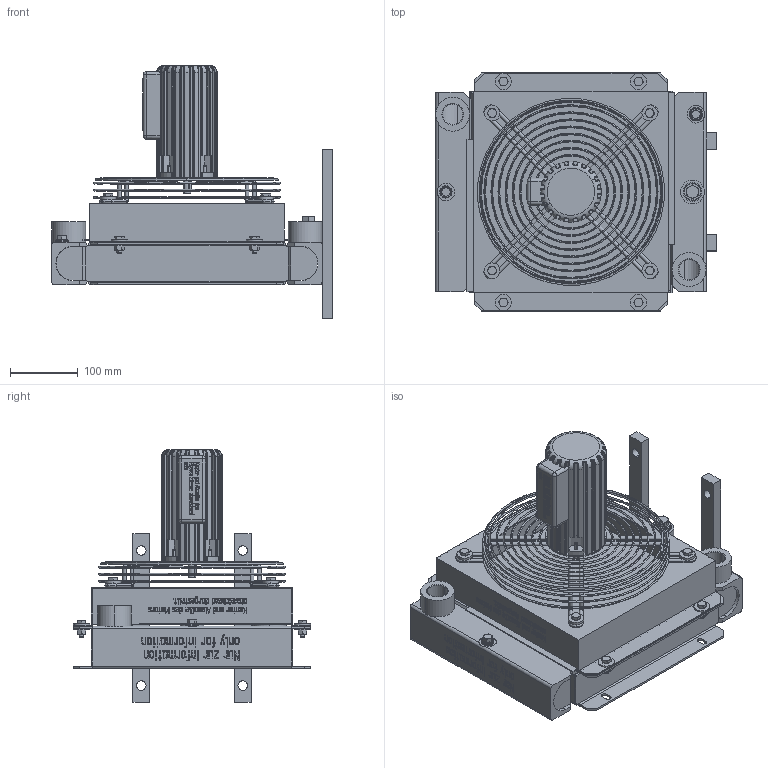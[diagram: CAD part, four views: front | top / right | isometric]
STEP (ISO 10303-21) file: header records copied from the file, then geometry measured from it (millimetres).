
FILE_DESCRIPTION((' '),'1');
FILE_NAME('5202_103_0000.step','2007-09-12 T',(' '),(' '),'STEP Interface v1.0 by CT CoreTechnologie','3D_Evolution v1.0 by CT CoreTechnologie',' ');
FILE_SCHEMA(('AUTOMOTIVE_DESIGN_CC2 { 1 2 10303 214 -1 1 5 2 }'));
Length unit declared in the file: millimetre
Products named in the file (67): 5202_103_0000; 6004391; 6004392; 6004393; 6004394; 8407_144_1102; 6038281; 6038282; 6038283; 6038284; 8402_459_00001; 8402_459_00002; 8402_459_00003; 8402_459_00004; 8402_459_00005; 8402_459_00006; 8402_459_00007; 8402_459_00008; 8402_459_00009; 8402_459_000010; 8402_459_000011; 8402_459_000012; 8402_459_000013; 8402_459_000014; 8402_459_000015; 8402_459_000016; 8402_459_000017; 5202_203_40101; 5202_203_40102; m81; m82; m83; m84; 6030041; 6030042; 6030043; 6030044; Sechskantschraube_ISO_4017-M8x20-8_8-A3B; 603857; 6004031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
Assembly tree (80 placements, depth 4):
  5202_103_0000
    6004391
    6004392
    6004393
    6004394
    8407_144_1102
    6038281
    6038282
    6038283
    6038284
    8402_459_00001
    8402_459_00002
    8402_459_00003
    8402_459_00004
    8402_459_00005
    8402_459_00006
    8402_459_00007
    8402_459_00008
    8402_459_00009
    8402_459_000010
    8402_459_000011
    8402_459_000012
    8402_459_000013
    8402_459_000014
    8402_459_000015
    8402_459_000016
    8402_459_000017
    5202_203_40101
      5202_203_40102
      m81
      m82
      m83
      m84
    6030041
    6030042
    6030043
    6030044
    Sechskantschraube_ISO_4017-M8x20-8_8-A3B  x8
    603857  x8
    6004031
    6004032
    6004033
    6004034
    5202_202_12101
    5202_202_12102
    5202_202_1000
      5202_202_13001
        8421_502_0000-1_Bohrung1
        8423_219_00001
        5202_202_13002
        8421_502_0000-11
      5202_202_12001
        8423_217_0000
        8423_219_00002
        8421_502_0000-12
        8421_502_0000-1_Bohrung2
        5202_202_12002
      5202_202_11001
        8560_273_00291
        8560_273_00292
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Bounding box: 415.01 x 352.23 x 374.5 mm (x, y, z)
Volume: 8010370.8 mm3; surface area: 1111029.2 mm2
Topology: 75 solids, 75 shells, 2913 faces, 7111 edges, 4541 vertices
Faces by surface type: plane 1580, cylinder 484, bspline 405, torus 238, cone 202, sphere 4
Entity records: 169866 total; most frequent: CARTESIAN_POINT 82534, ORIENTED_EDGE 13246, DIRECTION 12262, EDGE_CURVE 6623, VERTEX_POINT 4247, VECTOR 4100, LINE 4100, AXIS2_PLACEMENT_3D 4081
